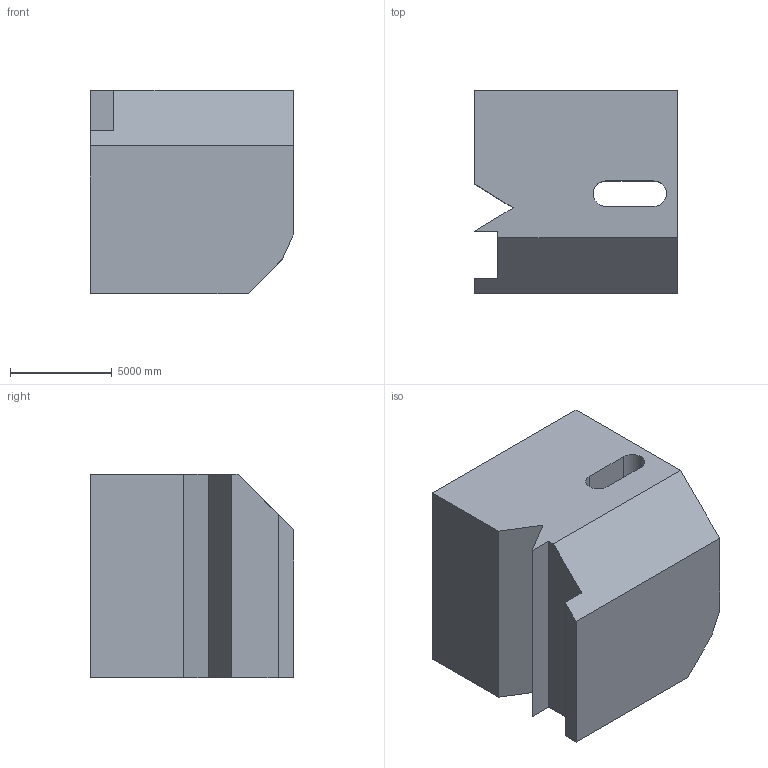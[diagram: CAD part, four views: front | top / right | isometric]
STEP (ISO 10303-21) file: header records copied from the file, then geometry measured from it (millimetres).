
FILE_DESCRIPTION (( 'STEP AP203' ), '1' );
FILE_NAME ('1680.STEP', '2022-08-19T11:40:08', ( 'user' ), ( '' ), 'SwSTEP 2.0', 'SolidWorks 2021', '' );
FILE_SCHEMA (( 'CONFIG_CONTROL_DESIGN' ));
Length unit declared in the file: centimetre
Products named in the file (1): 1680
Bounding box: 10000 x 10000 x 10000 mm (x, y, z)
Volume: 833520861089.8 mm3; surface area: 677387641.8 mm2
Topology: 1 solids, 1 shells, 25 faces, 78 edges, 52 vertices
Faces by surface type: plane 21, cylinder 4
Entity records: 946 total; most frequent: CARTESIAN_POINT 159, ORIENTED_EDGE 156, DIRECTION 138, EDGE_CURVE 78, VECTOR 68, LINE 68, VERTEX_POINT 52, AXIS2_PLACEMENT_3D 35
